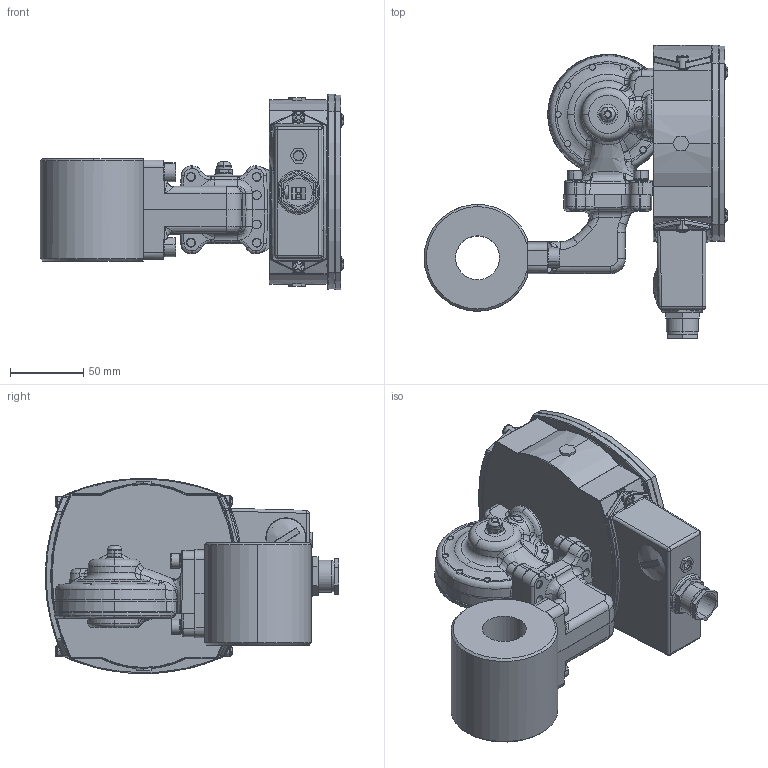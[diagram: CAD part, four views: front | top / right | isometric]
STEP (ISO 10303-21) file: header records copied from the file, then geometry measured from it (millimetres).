
FILE_DESCRIPTION (( 'STEP AP214' ), '1' );
FILE_NAME ('S FA25.STEP', '2016-09-21T06:48:28', ( 'User' ), ( 'HP' ), 'SwSTEP 2.0', 'SolidWorks 2016', '' );
FILE_SCHEMA (( 'AUTOMOTIVE_DESIGN' ));
Length unit declared in the file: millimetre
Products named in the file (35): ID_1_4_4; M5 membranskruvar_1; ID_1_4_3; skruv_membranhus_1; ID_1_1_2; fj_X_E4derbricka till membranhus BR_1; ID_9; MC6S M6x22_1; ID_1_4_2; Lock kontrollerad HMAB ELETTA 20160908_1; ID_7_2; ID_6_1; Membranhus kontrollerad HMAB ELETTA 20160908_1; ID_5_2; ID_4_3; S2_25_internal_2_1; ID_3_3; kupolmutter_1; ID_2_4; m_X_E4ssingsmembran_1; ID_1_4; S hus; ID_1_4_8; S FA25; ID_14; ID_13; FA25 anslutningsror; ID_12; fa hals; ID_1_1; ID_2_2; ID_1_4_5; ID_1_2; ID_10; membranhus br
Assembly tree (54 placements, depth 5):
  S FA25
    S hus
      ID_1_1
        ID_1_4
        ID_2_4
        ID_3_3
        ID_4_3
        ID_5_2
        ID_6_1  x4
        ID_7_2  x4
        ID_1_4_2
        ID_1_1_2
          ID_9  x2
        ID_1_4_3
        ID_1_4_4
        ID_10
        ID_1_4_5
      ID_12  x2
      ID_13
      ID_14
      ID_1_4_8
    membranhus br
      S2_25_internal_2_1
        m_X_E4ssingsmembran_1
        kupolmutter_1
      Membranhus kontrollerad HMAB ELETTA 20160908_1
      Lock kontrollerad HMAB ELETTA 20160908_1
      MC6S M6x22_1  x4
      M5 membranskruvar_1  x9
        fj_X_E4derbricka till membranhus BR_1
        skruv_membranhus_1
    fa hals
      ID_1_2
      ID_2_2  x2
    FA25 anslutningsror
Bounding box: 207.5 x 200.42 x 133.42 mm (x, y, z)
Volume: 730673.4 mm3; surface area: 278287.8 mm2
Topology: 56 solids, 56 shells, 2415 faces, 5937 edges, 3684 vertices
Faces by surface type: plane 862, cylinder 687, bspline 585, cone 207, torus 67, sphere 7
Entity records: 101069 total; most frequent: CARTESIAN_POINT 58774, ORIENTED_EDGE 9340, DIRECTION 7188, EDGE_CURVE 4670, VERTEX_POINT 2917, AXIS2_PLACEMENT_3D 2681, EDGE_LOOP 2107, ADVANCED_FACE 1892
